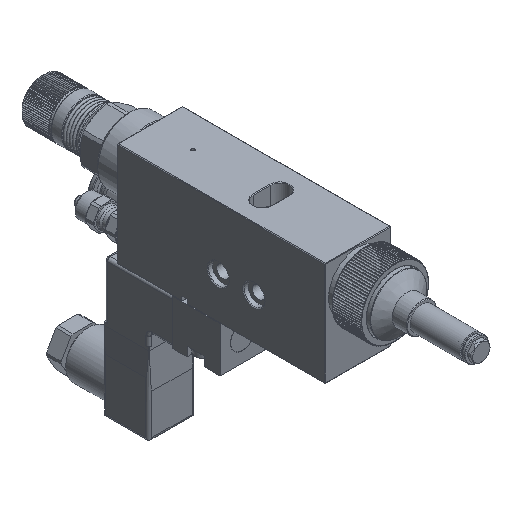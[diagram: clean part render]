
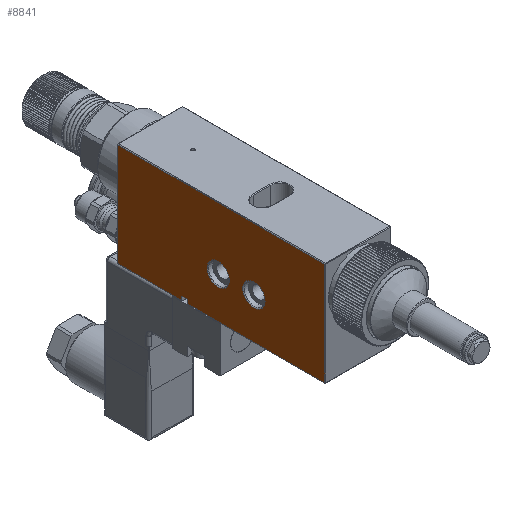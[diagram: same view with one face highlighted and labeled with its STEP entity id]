
A CAD part, isometric view. The second image highlights one B-rep face of the part: STEP entity #8841.
In plain terms, the highlighted planar face has unit normal (-1, 0, 0).
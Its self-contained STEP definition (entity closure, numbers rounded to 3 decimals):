
#1086 = VERTEX_POINT ( 'NONE', #27951 ) ;
#1306 = ORIENTED_EDGE ( 'NONE', *, *, #55249, .F. ) ;
#1870 = CARTESIAN_POINT ( 'NONE',  ( -11., 76.8, 10.5 ) ) ;
#2497 = DIRECTION ( 'NONE',  ( 0., 0., 1. ) ) ;
#2505 = VECTOR ( 'NONE', #45910, 1000. ) ;
#2762 = VERTEX_POINT ( 'NONE', #22563 ) ;
#4911 = ORIENTED_EDGE ( 'NONE', *, *, #33413, .T. ) ;
#6226 = EDGE_CURVE ( 'NONE', #2762, #45472, #11632, .T. ) ;
#6682 = CARTESIAN_POINT ( 'NONE',  ( -11., 76.8, -24.3 ) ) ;
#8363 = ORIENTED_EDGE ( 'NONE', *, *, #6226, .F. ) ;
#8647 = FACE_BOUND ( 'NONE', #46266, .T. ) ;
#8841 = ADVANCED_FACE ( 'NONE', ( #8647, #60844, #50979 ), #37694, .T. ) ;
#9693 = CARTESIAN_POINT ( 'NONE',  ( -11., 10.5, -24.3 ) ) ;
#9784 = VECTOR ( 'NONE', #40153, 1000. ) ;
#9840 = EDGE_CURVE ( 'NONE', #16299, #35333, #32165, .T. ) ;
#10835 = CARTESIAN_POINT ( 'NONE',  ( -11., 31., -10.5 ) ) ;
#11358 = EDGE_CURVE ( 'NONE', #45631, #2762, #50095, .T. ) ;
#11402 = LINE ( 'NONE', #12329, #9784 ) ;
#11632 = LINE ( 'NONE', #25839, #40573 ) ;
#11752 = DIRECTION ( 'NONE',  ( 1., 0., 0. ) ) ;
#12329 = CARTESIAN_POINT ( 'NONE',  ( -11., 77., -24.3 ) ) ;
#15398 = EDGE_CURVE ( 'NONE', #43606, #16299, #22131, .T. ) ;
#16299 = VERTEX_POINT ( 'NONE', #43575 ) ;
#16832 = EDGE_CURVE ( 'NONE', #1086, #45472, #36054, .T. ) ;
#17496 = VERTEX_POINT ( 'NONE', #51446 ) ;
#17644 = CARTESIAN_POINT ( 'NONE',  ( -11., 53.3, -23. ) ) ;
#21629 = CARTESIAN_POINT ( 'NONE',  ( -11., 31., -6.75 ) ) ;
#22131 = LINE ( 'NONE', #31731, #32181 ) ;
#22563 = CARTESIAN_POINT ( 'NONE',  ( -11., 76.8, 10.3 ) ) ;
#23093 = CARTESIAN_POINT ( 'NONE',  ( -11., 7.2, 10.3 ) ) ;
#23860 = VECTOR ( 'NONE', #37819, 1000. ) ;
#25114 = CARTESIAN_POINT ( 'NONE',  ( -11., 55.3, -24.3 ) ) ;
#25195 = CIRCLE ( 'NONE', #40037, 3.75 ) ;
#25665 = DIRECTION ( 'NONE',  ( 1., 0., 0. ) ) ;
#25839 = CARTESIAN_POINT ( 'NONE',  ( -11., 77., 10.3 ) ) ;
#26273 = VERTEX_POINT ( 'NONE', #21629 ) ;
#26287 = VECTOR ( 'NONE', #32436, 1000. ) ;
#26747 = EDGE_LOOP ( 'NONE', ( #38131, #36157, #46900, #1306, #41873, #8363, #49495, #45933 ) ) ;
#27806 = DIRECTION ( 'NONE',  ( 0., 0., 1. ) ) ;
#27951 = CARTESIAN_POINT ( 'NONE',  ( -11., 7.2, -24.3 ) ) ;
#28315 = AXIS2_PLACEMENT_3D ( 'NONE', #10835, #25665, #48229 ) ;
#29003 = EDGE_CURVE ( 'NONE', #39200, #43606, #60510, .T. ) ;
#31731 = CARTESIAN_POINT ( 'NONE',  ( -11., 10.5, -23. ) ) ;
#32165 = LINE ( 'NONE', #17644, #60298 ) ;
#32181 = VECTOR ( 'NONE', #49961, 1000. ) ;
#32436 = DIRECTION ( 'NONE',  ( 0., 0., 1. ) ) ;
#33413 = EDGE_CURVE ( 'NONE', #26273, #26273, #54921, .T. ) ;
#35245 = CARTESIAN_POINT ( 'NONE',  ( -11., 43., -10.5 ) ) ;
#35333 = VERTEX_POINT ( 'NONE', #59087 ) ;
#36054 = LINE ( 'NONE', #36654, #2505 ) ;
#36157 = ORIENTED_EDGE ( 'NONE', *, *, #15398, .T. ) ;
#36494 = DIRECTION ( 'NONE',  ( 0., 0., -1. ) ) ;
#36654 = CARTESIAN_POINT ( 'NONE',  ( -11., 7.2, 10.5 ) ) ;
#37694 = PLANE ( 'NONE',  #44498 ) ;
#37819 = DIRECTION ( 'NONE',  ( 0., -1., 0. ) ) ;
#38131 = ORIENTED_EDGE ( 'NONE', *, *, #29003, .T. ) ;
#39200 = VERTEX_POINT ( 'NONE', #25114 ) ;
#40037 = AXIS2_PLACEMENT_3D ( 'NONE', #35245, #11752, #49741 ) ;
#40087 = EDGE_LOOP ( 'NONE', ( #57858 ) ) ;
#40153 = DIRECTION ( 'NONE',  ( 0., 1., 0. ) ) ;
#40573 = VECTOR ( 'NONE', #44690, 1000. ) ;
#41415 = EDGE_CURVE ( 'NONE', #45631, #39200, #47080, .T. ) ;
#41873 = ORIENTED_EDGE ( 'NONE', *, *, #16832, .T. ) ;
#43575 = CARTESIAN_POINT ( 'NONE',  ( -11., 53.3, -23. ) ) ;
#43606 = VERTEX_POINT ( 'NONE', #43932 ) ;
#43932 = CARTESIAN_POINT ( 'NONE',  ( -11., 55.3, -23. ) ) ;
#44498 = AXIS2_PLACEMENT_3D ( 'NONE', #51278, #46338, #27806 ) ;
#44690 = DIRECTION ( 'NONE',  ( 0., -1., 0. ) ) ;
#45472 = VERTEX_POINT ( 'NONE', #23093 ) ;
#45631 = VERTEX_POINT ( 'NONE', #6682 ) ;
#45636 = VECTOR ( 'NONE', #2497, 1000. ) ;
#45910 = DIRECTION ( 'NONE',  ( 0., 0., 1. ) ) ;
#45933 = ORIENTED_EDGE ( 'NONE', *, *, #41415, .T. ) ;
#46266 = EDGE_LOOP ( 'NONE', ( #4911 ) ) ;
#46338 = DIRECTION ( 'NONE',  ( -1., 0., 0. ) ) ;
#46900 = ORIENTED_EDGE ( 'NONE', *, *, #9840, .T. ) ;
#47080 = LINE ( 'NONE', #9693, #23860 ) ;
#48229 = DIRECTION ( 'NONE',  ( 0., 0., 1. ) ) ;
#49495 = ORIENTED_EDGE ( 'NONE', *, *, #11358, .F. ) ;
#49741 = DIRECTION ( 'NONE',  ( 0., 0., 1. ) ) ;
#49961 = DIRECTION ( 'NONE',  ( 0., -1., 0. ) ) ;
#50095 = LINE ( 'NONE', #1870, #45636 ) ;
#50979 = FACE_OUTER_BOUND ( 'NONE', #26747, .T. ) ;
#51278 = CARTESIAN_POINT ( 'NONE',  ( -11., 10.5, 5.2 ) ) ;
#51446 = CARTESIAN_POINT ( 'NONE',  ( -11., 43., -6.75 ) ) ;
#51558 = CARTESIAN_POINT ( 'NONE',  ( -11., 55.3, -23. ) ) ;
#52691 = EDGE_CURVE ( 'NONE', #17496, #17496, #25195, .T. ) ;
#54921 = CIRCLE ( 'NONE', #28315, 3.75 ) ;
#55249 = EDGE_CURVE ( 'NONE', #1086, #35333, #11402, .T. ) ;
#57858 = ORIENTED_EDGE ( 'NONE', *, *, #52691, .T. ) ;
#59087 = CARTESIAN_POINT ( 'NONE',  ( -11., 53.3, -24.3 ) ) ;
#60298 = VECTOR ( 'NONE', #36494, 1000. ) ;
#60510 = LINE ( 'NONE', #51558, #26287 ) ;
#60844 = FACE_BOUND ( 'NONE', #40087, .T. ) ;
